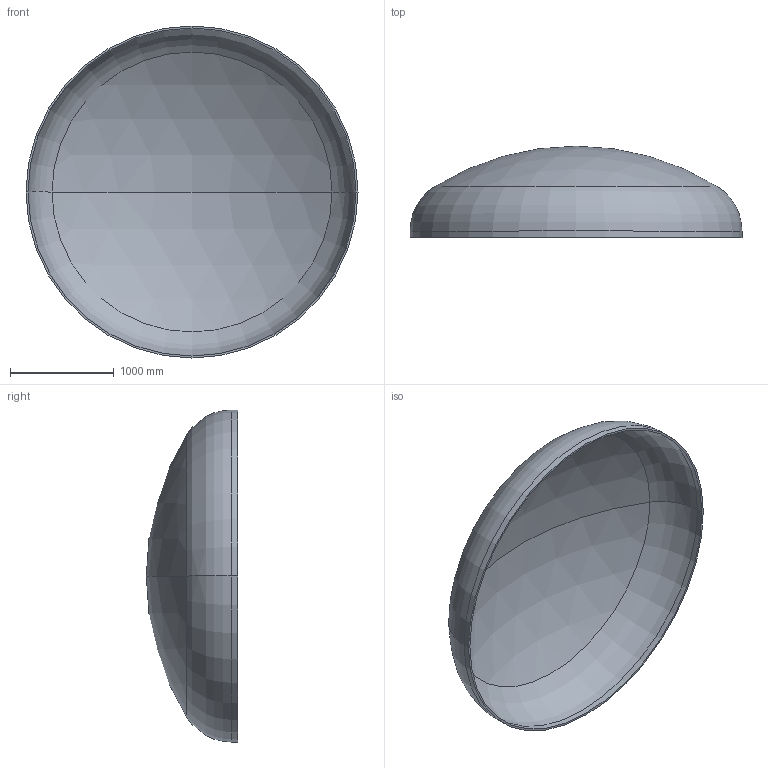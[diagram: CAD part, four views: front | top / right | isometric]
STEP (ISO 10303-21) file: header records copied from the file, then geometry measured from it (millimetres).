
FILE_DESCRIPTION (( 'STEP AP203' ), '1' );
FILE_NAME ('DIN 28013 Korbbogenform_-_Boden DIN 28013 - 3200 x 60 - I - s=19.step', '2016-07-01T18:23:26', ( '' ), ( '' ), 'SwSTEP 2.0', 'SolidWorks 2013', '' );
FILE_SCHEMA (( 'CONFIG_CONTROL_DESIGN' ));
Length unit declared in the file: millimetre
Products named in the file (1): DIN 28013 Korbbogenform_-_Boden DIN 28013 - 3200 x 60 - I - s=19
Bounding box: 3200 x 879.85 x 3200 mm (x, y, z)
Volume: 221145420.4 mm3; surface area: 23469087 mm2
Topology: 1 solids, 1 shells, 13 faces, 24 edges, 14 vertices
Faces by surface type: torus 4, cylinder 4, sphere 4, plane 1
Entity records: 407 total; most frequent: DIRECTION 72, CARTESIAN_POINT 52, ORIENTED_EDGE 48, AXIS2_PLACEMENT_3D 34, EDGE_CURVE 24, CIRCLE 20, EDGE_LOOP 14, VERTEX_POINT 14
